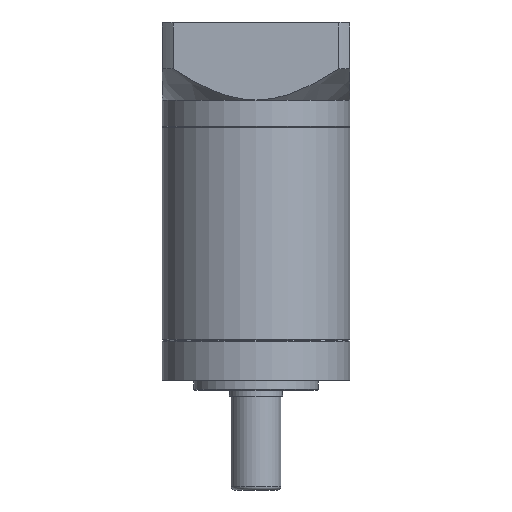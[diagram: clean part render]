
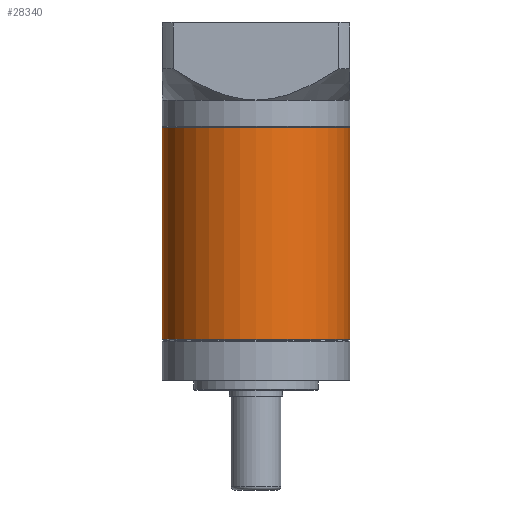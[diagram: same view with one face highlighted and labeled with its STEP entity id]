
A CAD part, front view. The second image highlights one B-rep face of the part: STEP entity #28340.
In plain terms, the highlighted cylindrical face has radius 30 mm (diameter 60 mm), a partial arc.
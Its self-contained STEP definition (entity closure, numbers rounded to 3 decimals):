
#116 = AXIS2_PLACEMENT_3D ( 'NONE', #10306, #68324, #18734 ) ;
#7171 = EDGE_CURVE ( 'NONE', #17323, #65284, #62578, .T. ) ;
#8982 = ORIENTED_EDGE ( 'NONE', *, *, #40054, .T. ) ;
#10306 = CARTESIAN_POINT ( 'NONE',  ( -62.624, 24.461, -95.894 ) ) ;
#11208 = CYLINDRICAL_SURFACE ( 'NONE', #82126, 30. ) ;
#13612 = ORIENTED_EDGE ( 'NONE', *, *, #54639, .T. ) ;
#17323 = VERTEX_POINT ( 'NONE', #83479 ) ;
#18734 = DIRECTION ( 'NONE',  ( 1., 0., 0. ) ) ;
#21659 = FACE_OUTER_BOUND ( 'NONE', #60716, .T. ) ;
#23296 = CARTESIAN_POINT ( 'NONE',  ( -92.624, 24.461, -27.844 ) ) ;
#28340 = ADVANCED_FACE ( 'NONE', ( #21659 ), #11208, .T. ) ;
#34868 = CARTESIAN_POINT ( 'NONE',  ( -62.624, 24.461, -28.094 ) ) ;
#38229 = DIRECTION ( 'NONE',  ( 0., 0., -1. ) ) ;
#40054 = EDGE_CURVE ( 'NONE', #99420, #65284, #52253, .T. ) ;
#40204 = VERTEX_POINT ( 'NONE', #102931 ) ;
#40851 = CARTESIAN_POINT ( 'NONE',  ( -32.624, 24.461, -27.844 ) ) ;
#43192 = DIRECTION ( 'NONE',  ( 1., 0., 0. ) ) ;
#46902 = CIRCLE ( 'NONE', #103914, 30. ) ;
#52253 = CIRCLE ( 'NONE', #116, 30. ) ;
#53297 = VECTOR ( 'NONE', #72927, 1000. ) ;
#53326 = CARTESIAN_POINT ( 'NONE',  ( -32.624, 24.461, -95.894 ) ) ;
#54639 = EDGE_CURVE ( 'NONE', #40204, #99420, #55858, .T. ) ;
#55858 = LINE ( 'NONE', #23296, #53297 ) ;
#60716 = EDGE_LOOP ( 'NONE', ( #67191, #63820, #13612, #8982 ) ) ;
#62578 = LINE ( 'NONE', #40851, #106534 ) ;
#63820 = ORIENTED_EDGE ( 'NONE', *, *, #85096, .T. ) ;
#65284 = VERTEX_POINT ( 'NONE', #53326 ) ;
#67191 = ORIENTED_EDGE ( 'NONE', *, *, #7171, .F. ) ;
#68324 = DIRECTION ( 'NONE',  ( 0., 0., 1. ) ) ;
#68699 = CARTESIAN_POINT ( 'NONE',  ( -62.624, 24.461, -27.844 ) ) ;
#69052 = DIRECTION ( 'NONE',  ( 0., 0., -1. ) ) ;
#72927 = DIRECTION ( 'NONE',  ( 0., 0., -1. ) ) ;
#80854 = CARTESIAN_POINT ( 'NONE',  ( -92.624, 24.461, -95.894 ) ) ;
#82126 = AXIS2_PLACEMENT_3D ( 'NONE', #68699, #69052, #102246 ) ;
#83479 = CARTESIAN_POINT ( 'NONE',  ( -32.624, 24.461, -28.094 ) ) ;
#85096 = EDGE_CURVE ( 'NONE', #17323, #40204, #46902, .T. ) ;
#92790 = DIRECTION ( 'NONE',  ( 0., 0., -1. ) ) ;
#99420 = VERTEX_POINT ( 'NONE', #80854 ) ;
#102246 = DIRECTION ( 'NONE',  ( -1., 0., 0. ) ) ;
#102931 = CARTESIAN_POINT ( 'NONE',  ( -92.624, 24.461, -28.094 ) ) ;
#103914 = AXIS2_PLACEMENT_3D ( 'NONE', #34868, #92790, #43192 ) ;
#106534 = VECTOR ( 'NONE', #38229, 1000. ) ;
